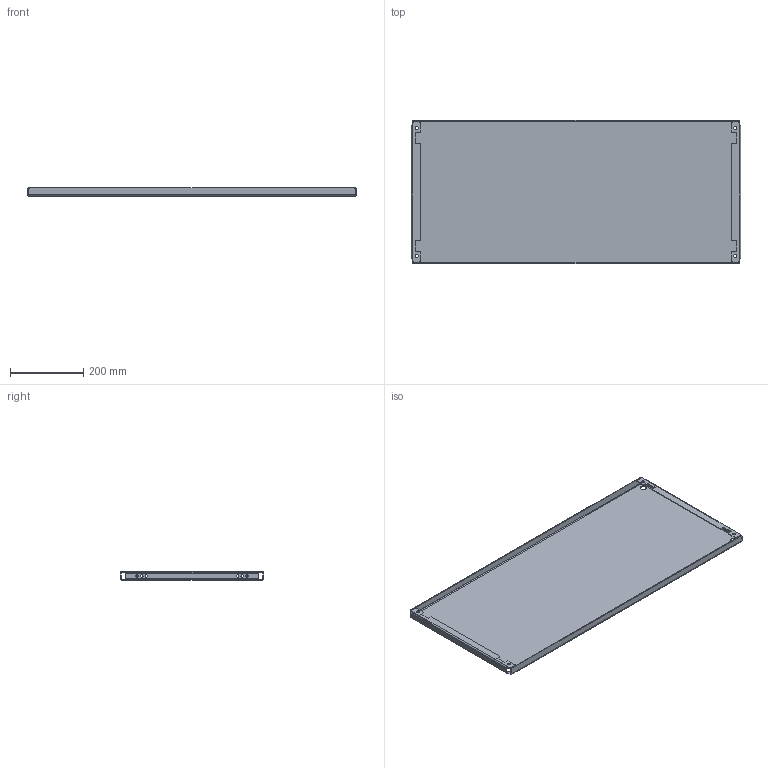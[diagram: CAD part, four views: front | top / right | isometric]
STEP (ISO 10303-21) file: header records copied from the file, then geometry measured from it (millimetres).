
FILE_DESCRIPTION(('STEP AP203'), '1');
FILE_NAME('3550 Ñåêöèîííàÿ ìîíòàæíàÿ ïàíåëü', '', ('UNSPECIFIED'), ('UNSPECIFIED'), 'C3D Converter', 'C3D Toolkit', '');
FILE_SCHEMA(('CONFIG_CONTROL_DESIGN'));
Length unit declared in the file: millimetre
Products named in the file (1): 3550.40.100
Bounding box: 900 x 392 x 22 mm (x, y, z)
Volume: 823919.3 mm3; surface area: 831045 mm2
Topology: 1 solids, 1 shells, 118 faces, 300 edges, 184 vertices
Faces by surface type: plane 66, cylinder 52
Full cylindrical faces by diameter (mm): 7 x12, 8 x4, 17 x4
Entity records: 3544 total; most frequent: DIRECTION 622, CARTESIAN_POINT 583, ORIENTED_EDGE 560, EDGE_CURVE 280, AXIS2_PLACEMENT_3D 223, VERTEX_POINT 184, EDGE_LOOP 178, LINE 176
